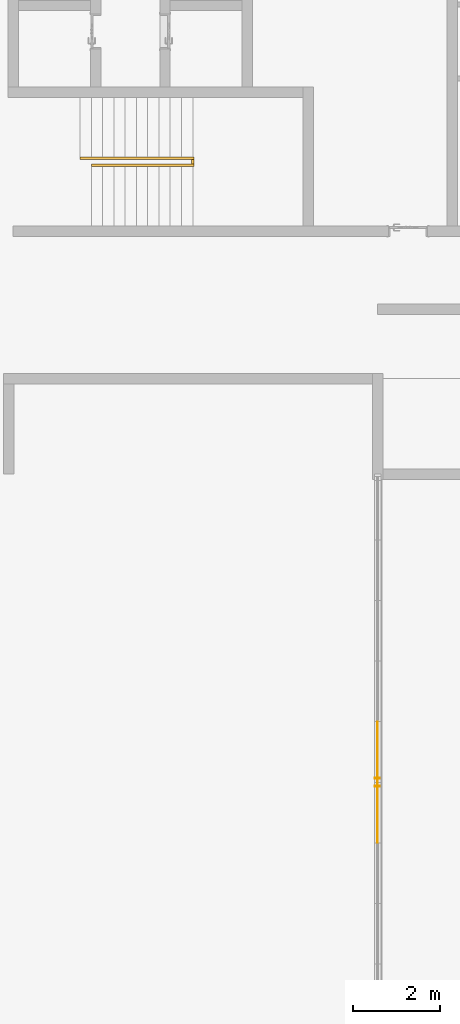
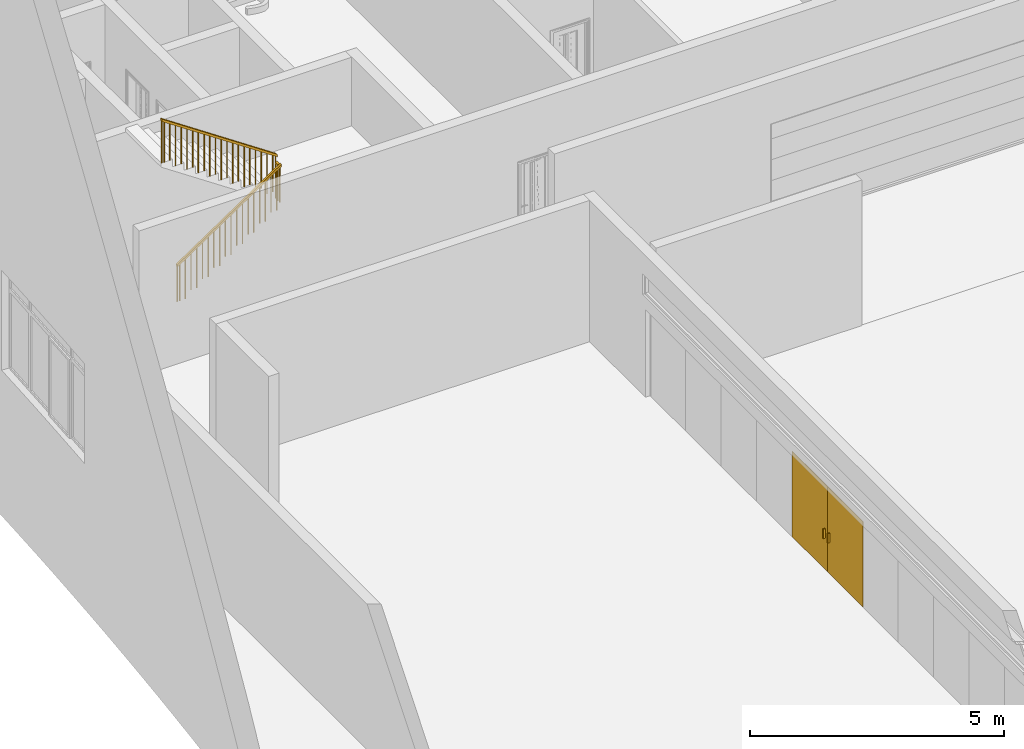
# One storey, part 23 of 24: 2 doors, 1 railing, 2 elements without a shape of their own.
"""IFC2X3 building model written with IfcOpenShell, lengths in millimetres."""

from ifc_helpers import new_model, entity, si_unit, converted_unit, derived_unit, direction, frame, frame_2d, origin, origin_2d_with_axis, place, context, subcontext, project, spatial, polyline, rectangle, outline, extrude, source, transform, mapped, material, material_list, type_object, type_shapes, element, aggregate, save


model = new_model("IFC2X3")

# Units and contexts
model_context = context("Model", 3, precision=0.01, world=origin(), true_north=direction((6.12303176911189e-17, 1.0)))
body_context = subcontext(model_context, "Body", "Model", "MODEL_VIEW")
ifc_project = project(units=[si_unit("LENGTHUNIT", "METRE", prefix="MILLI"), si_unit("AREAUNIT", "SQUARE_METRE"), si_unit("VOLUMEUNIT", "CUBIC_METRE"), converted_unit("PLANEANGLEUNIT", "DEGREE", entity("IfcRatioMeasure", 0.0174532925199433), si_unit("PLANEANGLEUNIT", "RADIAN"), dimensions=[0, 0, 0, 0, 0, 0, 0]), si_unit("MASSUNIT", "GRAM", prefix="KILO"), derived_unit("MASSDENSITYUNIT", [(si_unit("MASSUNIT", "GRAM", prefix="KILO"), 1), (si_unit("LENGTHUNIT", "METRE"), -3)]), si_unit("TIMEUNIT", "SECOND"), si_unit("FREQUENCYUNIT", "HERTZ"), si_unit("THERMODYNAMICTEMPERATUREUNIT", "DEGREE_CELSIUS"), derived_unit("THERMALTRANSMITTANCEUNIT", [(si_unit("MASSUNIT", "GRAM", prefix="KILO"), 1), (si_unit("THERMODYNAMICTEMPERATUREUNIT", "KELVIN"), -1), (si_unit("TIMEUNIT", "SECOND"), -3)]), derived_unit("VOLUMETRICFLOWRATEUNIT", [(si_unit("LENGTHUNIT", "METRE"), 3), (si_unit("TIMEUNIT", "SECOND"), -1)]), si_unit("ELECTRICCURRENTUNIT", "AMPERE"), si_unit("ELECTRICVOLTAGEUNIT", "VOLT"), si_unit("POWERUNIT", "WATT"), si_unit("FORCEUNIT", "NEWTON", prefix="KILO"), si_unit("ILLUMINANCEUNIT", "LUX"), si_unit("LUMINOUSFLUXUNIT", "LUMEN"), si_unit("LUMINOUSINTENSITYUNIT", "CANDELA"), derived_unit("USERDEFINED", [(si_unit("MASSUNIT", "GRAM", prefix="KILO"), -1), (si_unit("LENGTHUNIT", "METRE"), -2), (si_unit("TIMEUNIT", "SECOND"), 3), (si_unit("LUMINOUSFLUXUNIT", "LUMEN"), 1)]), derived_unit("LINEARVELOCITYUNIT", [(si_unit("LENGTHUNIT", "METRE"), 1), (si_unit("TIMEUNIT", "SECOND"), -1)]), si_unit("PRESSUREUNIT", "PASCAL"), derived_unit("USERDEFINED", [(si_unit("LENGTHUNIT", "METRE"), -2), (si_unit("MASSUNIT", "GRAM", prefix="KILO"), 1), (si_unit("TIMEUNIT", "SECOND"), -2)])], contexts=[model_context])

# Site, building, storey
site_placement = place(None, origin())
site = spatial("IfcSite", under=ifc_project, at=site_placement, Name="表面", CompositionType="ELEMENT")
building_placement = place(site_placement, origin())
building = spatial("IfcBuilding", under=site, at=building_placement, CompositionType="ELEMENT")
storey_placement = place(building_placement, frame((0.0, 0.0, -3500.0)))
storey = spatial("IfcBuildingStorey", under=building, at=storey_placement, Name="-1F", CompositionType="ELEMENT", Elevation=-3500.0)

# Curtain wall, doors
curtain_wall_type = type_object("IfcCurtainWallType", Name="幕墙:店面", PredefinedType="NOTDEFINED")
curtain_wall_placement = place(storey_placement, frame((0.0, 0.0, 3500.0)))
curtain_wall = element("IfcCurtainWall", 1, at=curtain_wall_placement, inside=storey, type_object=curtain_wall_type, Name="幕墙:店面", ObjectType="幕墙:店面")
ifc_material_1 = material(Name="金属 - 铝")
ifc_material_2 = material(Name="玻璃")
ifc_material_list_1 = material_list([ifc_material_1, ifc_material_2])
ifc_material_list_2 = material_list([ifc_material_1, ifc_material_2])
door_style_1 = type_object("IfcDoorStyle", Name="幕墙单开玻璃门 900/2100", ConstructionType="NOTDEFINED", OperationType="SINGLE_SWING_RIGHT", ParameterTakesPrecedence=False, Sizeable=False, material=ifc_material_list_2)
shared_shape_1 = source(origin(), body_context, "Body", "SweptSolid", [
    extrude(rectangle(XDim=25.4, YDim=50.8, at=frame_2d((-6.75015598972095e-14, -1.77635683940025e-15), x_axis=(1.0, 0.0))), frame((-609.281818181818, 38.0999999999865, 762.0), z_axis=(0.0, 0.0, 1.0), x_axis=(-1.0, 0.0, 0.0)), (0.0, 0.0, 1.0), 228.6),
    extrude(rectangle(XDim=25.3999999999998, YDim=50.8, at=frame_2d((-6.75015598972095e-14, -3.5527136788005e-15), x_axis=(1.0, 0.0))), frame((-609.281818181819, -25.4000000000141, 762.0)), (0.0, 0.0, 1.0), 228.6),
    extrude(rectangle(XDim=12.7000000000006, YDim=1396.36363636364, at=origin_2d_with_axis()), frame((0.0, 6.34999999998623, 0.0), z_axis=(0.0, 0.0, 1.0), x_axis=(0.0, 1.0, 0.0)), (0.0, 0.0, 1.0), 2050.0),
])
type_shapes(door_style_1, [shared_shape_1])
door_1_placement = place(curtain_wall_placement, frame((-3630.24991264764, -20711.4822766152, -3500.0), z_axis=(0.0, 0.0, 1.0), x_axis=(0.0, 1.0, 0.0)))
door_1 = element("IfcDoor", 2, at=door_1_placement, type_object=door_style_1, material=ifc_material_list_1, Name="幕墙单开玻璃门:幕墙单开玻璃门 900/2100", ObjectType="幕墙单开玻璃门 900/2100", OverallHeight=2050.0, OverallWidth=1396.36363636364, context=body_context, shape_type="MappedRepresentation", body=[
    mapped(shared_shape_1, transform((0.0, 0.0, 0.0), scale=1.0)),
])
ifc_material_list_3 = material_list([ifc_material_1, ifc_material_2])
ifc_material_list_4 = material_list([ifc_material_1, ifc_material_2])
door_style_2 = type_object("IfcDoorStyle", Name="幕墙单开玻璃门 900/2100", ConstructionType="NOTDEFINED", OperationType="SINGLE_SWING_LEFT", ParameterTakesPrecedence=False, Sizeable=False, material=ifc_material_list_4)
shared_shape_2 = source(origin(), body_context, "Body", "SweptSolid", [
    extrude(rectangle(XDim=50.8, YDim=25.4, at=frame_2d((3.5527136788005e-15, 0.0), x_axis=(1.0, 0.0))), frame((-609.281818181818, -38.0999999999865, 762.0), z_axis=(0.0, 0.0, 1.0), x_axis=(0.0, 1.0, 0.0)), (0.0, 0.0, 1.0), 228.6),
    extrude(rectangle(XDim=50.8, YDim=25.3999999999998, at=origin_2d_with_axis()), frame((-609.281818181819, 25.4000000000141, 762.0), z_axis=(0.0, 0.0, 1.0), x_axis=(0.0, -1.0, 0.0)), (0.0, 0.0, 1.0), 228.6),
    extrude(rectangle(XDim=1396.36363636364, YDim=12.7000000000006, at=origin_2d_with_axis()), frame((0.0, -6.34999999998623, 0.0), z_axis=(0.0, 0.0, 1.0), x_axis=(-1.0, 0.0, 0.0)), (0.0, 0.0, 1.0), 2050.0),
])
type_shapes(door_style_2, [shared_shape_2])
door_2_placement = place(curtain_wall_placement, frame((-3630.24991264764, -22107.8459129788, -3500.0), z_axis=(0.0, 0.0, 1.0), x_axis=(0.0, -1.0, 0.0)))
door_2 = element("IfcDoor", 3, at=door_2_placement, type_object=door_style_2, material=ifc_material_list_3, Name="幕墙单开玻璃门:幕墙单开玻璃门 900/2100", ObjectType="幕墙单开玻璃门 900/2100", OverallHeight=2050.0, OverallWidth=1396.36363636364, context=body_context, shape_type="MappedRepresentation", body=[
    mapped(shared_shape_2, transform((0.0, 0.0, 0.0), scale=1.0)),
])
aggregate(curtain_wall, [door_1, door_2])

# Stair, railing
stair_placement = place(storey_placement, origin())
stair = element("IfcStair", 4, at=stair_placement, inside=storey, ShapeType="NOTDEFINED")
ifc_material_3 = material(Name="不锈钢")
railing_placement = place(stair_placement, origin())
railing = element("IfcRailing", 5, at=railing_placement, material=ifc_material_3, Name="栏杆扶手:900mm", ObjectType="栏杆扶手:900mm", PredefinedType="NOTDEFINED", context=body_context, shape_type="SweptSolid", body=[
    extrude(outline(polyline([(-478.624165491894, -10.0), (485.354934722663, -10.0), (485.354934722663, 10.0), (-492.085703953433, 10.0), (-478.624165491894, -10.0)])), frame((-10424.8499126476, -7037.44591297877, 3985.35493472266), z_axis=(0.0, 1.0, 0.0), x_axis=(0.0, 0.0, -1.0)), (0.0, 0.0, 1.0), 19.9999999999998),
    extrude(outline(polyline([(-434.874165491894, -10.0), (441.604934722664, -10.0), (441.604934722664, 10.0), (-448.335703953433, 10.0), (-434.874165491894, -10.0)])), frame((-10294.8499126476, -7037.44591297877, 3941.60493472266), z_axis=(0.0, 1.0, 0.0), x_axis=(0.0, 0.0, -1.0)), (0.0, 0.0, 1.0), 19.9999999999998),
    extrude(outline(polyline([(-478.624165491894, -10.0), (485.354934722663, -10.0), (485.354934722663, 10.0), (-492.085703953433, 10.0), (-478.624165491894, -10.0)])), frame((-10164.8499126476, -7037.44591297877, 3810.35493472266), z_axis=(0.0, 1.0, 0.0), x_axis=(0.0, 0.0, -1.0)), (0.0, 0.0, 1.0), 19.9999999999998),
    extrude(outline(polyline([(-434.874165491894, -10.0), (441.604934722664, -10.0), (441.604934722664, 10.0), (-448.335703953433, 10.0), (-434.874165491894, -10.0)])), frame((-10034.8499126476, -7037.44591297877, 3766.60493472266), z_axis=(0.0, 1.0, 0.0), x_axis=(0.0, 0.0, -1.0)), (0.0, 0.0, 1.0), 19.9999999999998),
    extrude(outline(polyline([(-478.624165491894, -10.0), (485.354934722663, -10.0), (485.354934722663, 10.0), (-492.085703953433, 10.0), (-478.624165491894, -10.0)])), frame((-9904.84991264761, -7037.44591297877, 3635.35493472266), z_axis=(0.0, 1.0, 0.0), x_axis=(0.0, 0.0, -1.0)), (0.0, 0.0, 1.0), 19.9999999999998),
    extrude(outline(polyline([(-434.874165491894, -10.0), (441.604934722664, -10.0), (441.604934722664, 10.0), (-448.335703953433, 10.0), (-434.874165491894, -10.0)])), frame((-9774.84991264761, -7037.44591297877, 3591.60493472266), z_axis=(0.0, 1.0, 0.0), x_axis=(0.0, 0.0, -1.0)), (0.0, 0.0, 1.0), 19.9999999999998),
    extrude(outline(polyline([(-478.624165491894, -10.0), (485.354934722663, -10.0), (485.354934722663, 10.0), (-492.085703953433, 10.0), (-478.624165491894, -10.0)])), frame((-9644.84991264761, -7037.44591297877, 3460.35493472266), z_axis=(0.0, 1.0, 0.0), x_axis=(0.0, 0.0, -1.0)), (0.0, 0.0, 1.0), 19.9999999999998),
    extrude(outline(polyline([(-434.874165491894, -10.0), (441.604934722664, -10.0), (441.604934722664, 10.0), (-448.335703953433, 10.0), (-434.874165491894, -10.0)])), frame((-9514.84991264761, -7037.44591297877, 3416.60493472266), z_axis=(0.0, 1.0, 0.0), x_axis=(0.0, 0.0, -1.0)), (0.0, 0.0, 1.0), 19.9999999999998),
    extrude(outline(polyline([(-478.624165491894, -10.0), (485.354934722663, -10.0), (485.354934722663, 10.0), (-492.085703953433, 10.0), (-478.624165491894, -10.0)])), frame((-9384.84991264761, -7037.44591297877, 3285.35493472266), z_axis=(0.0, 1.0, 0.0), x_axis=(0.0, 0.0, -1.0)), (0.0, 0.0, 1.0), 19.9999999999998),
    extrude(outline(polyline([(-434.874165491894, -10.0), (441.604934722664, -10.0), (441.604934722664, 10.0), (-448.335703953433, 10.0), (-434.874165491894, -10.0)])), frame((-9254.84991264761, -7037.44591297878, 3241.60493472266), z_axis=(0.0, 1.0, 0.0), x_axis=(0.0, 0.0, -1.0)), (0.0, 0.0, 1.0), 19.9999999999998),
    extrude(outline(polyline([(-478.624165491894, -10.0), (485.354934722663, -10.0), (485.354934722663, 10.0), (-492.085703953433, 10.0), (-478.624165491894, -10.0)])), frame((-9124.84991264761, -7037.44591297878, 3110.35493472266), z_axis=(0.0, 1.0, 0.0), x_axis=(0.0, 0.0, -1.0)), (0.0, 0.0, 1.0), 19.9999999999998),
    extrude(outline(polyline([(-434.874165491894, -10.0), (441.604934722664, -10.0), (441.604934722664, 10.0), (-448.335703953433, 10.0), (-434.874165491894, -10.0)])), frame((-8994.84991264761, -7037.44591297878, 3066.60493472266), z_axis=(0.0, 1.0, 0.0), x_axis=(0.0, 0.0, -1.0)), (0.0, 0.0, 1.0), 19.9999999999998),
    extrude(outline(polyline([(-478.624165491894, -10.0), (485.354934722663, -10.0), (485.354934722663, 10.0), (-492.085703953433, 10.0), (-478.624165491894, -10.0)])), frame((-8864.84991264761, -7037.44591297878, 2935.35493472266), z_axis=(0.0, 1.0, 0.0), x_axis=(0.0, 0.0, -1.0)), (0.0, 0.0, 1.0), 19.9999999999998),
    extrude(outline(polyline([(-434.874165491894, -10.0), (441.604934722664, -10.0), (441.604934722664, 10.0), (-448.335703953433, 10.0), (-434.874165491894, -10.0)])), frame((-8734.84991264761, -7037.44591297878, 2891.60493472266), z_axis=(0.0, 1.0, 0.0), x_axis=(0.0, 0.0, -1.0)), (0.0, 0.0, 1.0), 19.9999999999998),
    extrude(outline(polyline([(-478.624165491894, -10.0), (485.354934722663, -10.0), (485.354934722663, 10.0), (-492.085703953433, 10.0), (-478.624165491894, -10.0)])), frame((-8604.84991264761, -7037.44591297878, 2760.35493472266), z_axis=(0.0, 1.0, 0.0), x_axis=(0.0, 0.0, -1.0)), (0.0, 0.0, 1.0), 19.9999999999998),
    extrude(outline(polyline([(-434.874165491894, -10.0), (441.604934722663, -10.0), (441.604934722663, 10.0), (-448.335703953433, 10.0), (-434.874165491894, -10.0)])), frame((-8474.84991264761, -7037.44591297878, 2716.60493472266), z_axis=(0.0, 1.0, 0.0), x_axis=(0.0, 0.0, -1.0)), (0.0, 0.0, 1.0), 19.9999999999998),
    extrude(outline(polyline([(-478.624165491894, -10.0), (485.354934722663, -10.0), (485.354934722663, 10.0), (-492.085703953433, 10.0), (-478.624165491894, -10.0)])), frame((-8344.84991264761, -7037.44591297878, 2585.35493472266), z_axis=(0.0, 1.0, 0.0), x_axis=(0.0, 0.0, -1.0)), (0.0, 0.0, 1.0), 19.9999999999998),
    extrude(outline(polyline([(-434.874165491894, -10.0), (441.604934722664, -10.0), (441.604934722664, 10.0), (-448.335703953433, 10.0), (-434.874165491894, -10.0)])), frame((-8214.84991264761, -7037.44591297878, 2541.60493472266), z_axis=(0.0, 1.0, 0.0), x_axis=(0.0, 0.0, -1.0)), (0.0, 0.0, 1.0), 19.9999999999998),
    extrude(outline(polyline([(-478.624165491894, -10.0), (485.354934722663, -10.0), (485.354934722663, 10.0), (-492.085703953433, 10.0), (-478.624165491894, -10.0)])), frame((-8084.84991264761, -7037.44591297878, 2410.35493472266), z_axis=(0.0, 1.0, 0.0), x_axis=(0.0, 0.0, -1.0)), (0.0, 0.0, 1.0), 19.9999999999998),
    extrude(outline(polyline([(-434.874165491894, -10.0), (441.604934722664, -10.0), (441.604934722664, 10.0), (-448.335703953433, 10.0), (-434.874165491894, -10.0)])), frame((-7954.84991264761, -7037.44591297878, 2366.60493472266), z_axis=(0.0, 1.0, 0.0), x_axis=(0.0, 0.0, -1.0)), (0.0, 0.0, 1.0), 19.9999999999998),
    extrude(rectangle(XDim=19.9999999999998, YDim=19.9999999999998, at=origin_2d_with_axis()), frame((-7889.84991264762, -7123.24591297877, 1750.0)), (0.0, 0.0, 1.0), 850.0),
    extrude(outline(polyline([(-485.489550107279, -10.0), (478.75878087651, -10.0), (492.220319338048, 10.0), (-485.489550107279, 10.0), (-485.489550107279, -10.0)])), frame((-7955.24991264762, -7198.24591297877, 2060.48955010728), z_axis=(0.0, 1.0, 0.0), x_axis=(0.0, 0.0, 1.0)), (0.0, 0.0, 1.0), 19.9999999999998),
    extrude(outline(polyline([(-441.739550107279, -10.0), (435.00878087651, -10.0), (448.470319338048, 10.0), (-441.739550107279, 10.0), (-441.739550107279, -10.0)])), frame((-8085.24991264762, -7198.24591297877, 2016.73955010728), z_axis=(0.0, 1.0, 0.0), x_axis=(0.0, 0.0, 1.0)), (0.0, 0.0, 1.0), 19.9999999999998),
    extrude(outline(polyline([(-485.489550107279, -10.0), (478.758780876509, -10.0), (492.220319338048, 10.0), (-485.489550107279, 10.0), (-485.489550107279, -10.0)])), frame((-8215.24991264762, -7198.24591297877, 1885.48955010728), z_axis=(0.0, 1.0, 0.0), x_axis=(0.0, 0.0, 1.0)), (0.0, 0.0, 1.0), 19.9999999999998),
    extrude(outline(polyline([(-441.739550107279, -10.0), (435.00878087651, -10.0), (448.470319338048, 10.0), (-441.739550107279, 10.0), (-441.739550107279, -10.0)])), frame((-8345.24991264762, -7198.24591297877, 1841.73955010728), z_axis=(0.0, 1.0, 0.0), x_axis=(0.0, 0.0, 1.0)), (0.0, 0.0, 1.0), 19.9999999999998),
    extrude(outline(polyline([(-485.489550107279, -10.0), (478.75878087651, -10.0), (492.220319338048, 10.0), (-485.489550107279, 10.0), (-485.489550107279, -10.0)])), frame((-8475.24991264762, -7198.24591297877, 1710.48955010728), z_axis=(0.0, 1.0, 0.0), x_axis=(0.0, 0.0, 1.0)), (0.0, 0.0, 1.0), 19.9999999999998),
    extrude(outline(polyline([(-441.739550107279, -10.0), (435.00878087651, -10.0), (448.470319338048, 10.0), (-441.739550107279, 10.0), (-441.739550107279, -10.0)])), frame((-8605.24991264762, -7198.24591297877, 1666.73955010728), z_axis=(0.0, 1.0, 0.0), x_axis=(0.0, 0.0, 1.0)), (0.0, 0.0, 1.0), 19.9999999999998),
    extrude(outline(polyline([(-485.489550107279, -10.0), (478.758780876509, -10.0), (492.220319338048, 10.0), (-485.489550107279, 10.0), (-485.489550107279, -10.0)])), frame((-8735.24991264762, -7198.24591297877, 1535.48955010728), z_axis=(0.0, 1.0, 0.0), x_axis=(0.0, 0.0, 1.0)), (0.0, 0.0, 1.0), 19.9999999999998),
    extrude(outline(polyline([(-441.739550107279, -10.0), (435.00878087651, -10.0), (448.470319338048, 10.0), (-441.739550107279, 10.0), (-441.739550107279, -10.0)])), frame((-8865.24991264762, -7198.24591297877, 1491.73955010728), z_axis=(0.0, 1.0, 0.0), x_axis=(0.0, 0.0, 1.0)), (0.0, 0.0, 1.0), 19.9999999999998),
    extrude(outline(polyline([(-485.489550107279, -10.0), (478.75878087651, -10.0), (492.220319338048, 10.0), (-485.489550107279, 10.0), (-485.489550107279, -10.0)])), frame((-8995.24991264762, -7198.24591297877, 1360.48955010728), z_axis=(0.0, 1.0, 0.0), x_axis=(0.0, 0.0, 1.0)), (0.0, 0.0, 1.0), 19.9999999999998),
    extrude(outline(polyline([(-441.739550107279, -10.0), (435.00878087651, -10.0), (448.470319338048, 10.0), (-441.739550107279, 10.0), (-441.739550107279, -10.0)])), frame((-9125.24991264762, -7198.24591297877, 1316.73955010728), z_axis=(0.0, 1.0, 0.0), x_axis=(0.0, 0.0, 1.0)), (0.0, 0.0, 1.0), 19.9999999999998),
    extrude(outline(polyline([(-485.489550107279, -10.0), (478.758780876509, -10.0), (492.220319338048, 10.0), (-485.489550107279, 10.0), (-485.489550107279, -10.0)])), frame((-9255.24991264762, -7198.24591297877, 1185.48955010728), z_axis=(0.0, 1.0, 0.0), x_axis=(0.0, 0.0, 1.0)), (0.0, 0.0, 1.0), 19.9999999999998),
    extrude(outline(polyline([(-441.739550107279, -10.0), (435.00878087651, -10.0), (448.470319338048, 10.0), (-441.739550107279, 10.0), (-441.739550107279, -10.0)])), frame((-9385.24991264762, -7198.24591297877, 1141.73955010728), z_axis=(0.0, 1.0, 0.0), x_axis=(0.0, 0.0, 1.0)), (0.0, 0.0, 1.0), 19.9999999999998),
    extrude(outline(polyline([(-485.489550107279, -10.0), (478.758780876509, -10.0), (492.220319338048, 10.0), (-485.489550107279, 10.0), (-485.489550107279, -10.0)])), frame((-9515.24991264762, -7198.24591297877, 1010.48955010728), z_axis=(0.0, 1.0, 0.0), x_axis=(0.0, 0.0, 1.0)), (0.0, 0.0, 1.0), 19.9999999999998),
    extrude(outline(polyline([(-441.739550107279, -10.0), (435.00878087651, -10.0), (448.470319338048, 10.0), (-441.739550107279, 10.0), (-441.739550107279, -10.0)])), frame((-9645.24991264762, -7198.24591297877, 966.739550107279), z_axis=(0.0, 1.0, 0.0), x_axis=(0.0, 0.0, 1.0)), (0.0, 0.0, 1.0), 19.9999999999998),
    extrude(outline(polyline([(-485.489550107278, -10.0), (478.75878087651, -10.0), (492.220319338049, 10.0), (-485.489550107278, 10.0), (-485.489550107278, -10.0)])), frame((-9775.24991264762, -7198.24591297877, 835.489550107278), z_axis=(0.0, 1.0, 0.0), x_axis=(0.0, 0.0, 1.0)), (0.0, 0.0, 1.0), 19.9999999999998),
    extrude(outline(polyline([(-441.739550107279, -10.0), (435.00878087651, -10.0), (448.470319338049, 10.0), (-441.739550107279, 10.0), (-441.739550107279, -10.0)])), frame((-9905.24991264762, -7198.24591297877, 791.739550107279), z_axis=(0.0, 1.0, 0.0), x_axis=(0.0, 0.0, 1.0)), (0.0, 0.0, 1.0), 19.9999999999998),
    extrude(outline(polyline([(-485.489550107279, -10.0), (478.758780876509, -10.0), (492.220319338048, 10.0), (-485.489550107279, 10.0), (-485.489550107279, -10.0)])), frame((-10035.2499126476, -7198.24591297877, 660.489550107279), z_axis=(0.0, 1.0, 0.0), x_axis=(0.0, 0.0, 1.0)), (0.0, 0.0, 1.0), 19.9999999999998),
    extrude(outline(polyline([(-441.739550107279, -10.0), (435.00878087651, -10.0), (448.470319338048, 10.0), (-441.739550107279, 10.0), (-441.739550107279, -10.0)])), frame((-10165.2499126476, -7198.24591297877, 616.739550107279), z_axis=(0.0, 1.0, 0.0), x_axis=(0.0, 0.0, 1.0)), (0.0, 0.0, 1.0), 19.9999999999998),
    extrude(outline(polyline([(-500.499165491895, -10.0), (507.229934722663, -10.0), (507.229934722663, 10.0), (-513.960703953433, 10.0), (-500.499165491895, -10.0)])), frame((-7889.84991264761, -7037.44591297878, 2257.22993472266), z_axis=(0.0, 1.0, 0.0), x_axis=(0.0, 0.0, -1.0)), (0.0, 0.0, 1.0), 19.9999999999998),
    extrude(rectangle(XDim=19.9999999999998, YDim=19.9999999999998, at=origin_2d_with_axis()), frame((-7889.84991264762, -7188.24591297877, 1750.0), z_axis=(0.0, 0.0, 1.0), x_axis=(0.0, -1.0, 0.0)), (0.0, 0.0, 1.0), 850.0),
    extrude(outline(polyline([(-419.864550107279, -10.0), (413.133780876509, -10.0), (426.595319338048, 10.0), (-419.864550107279, 10.0), (-419.864550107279, -10.0)])), frame((-7890.24991264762, -7198.24591297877, 2169.86455010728), z_axis=(0.0, 1.0, 0.0), x_axis=(0.0, 0.0, 1.0)), (0.0, 0.0, 1.0), 19.9999999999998),
    extrude(outline(polyline([(-497.268396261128, -10.0), (503.999165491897, -10.0), (503.999165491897, 10.0), (-510.729934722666, 10.0), (-497.268396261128, -10.0)])), frame((-10480.2499126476, -7037.44591297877, 4003.9991654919), z_axis=(0.0, 1.0, 0.0), x_axis=(0.0, 0.0, -1.0)), (0.0, 0.0, 1.0), 19.9999999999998),
    extrude(outline(polyline([(-423.229934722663, -10.0), (416.499165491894, -10.0), (429.960703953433, 10.0), (-423.229934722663, 10.0), (-423.229934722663, -10.0)])), frame((-10220.2499126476, -7198.24591297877, 598.229934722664), z_axis=(0.0, 1.0, 0.0), x_axis=(0.0, 0.0, 1.0)), (0.0, 0.0, 1.0), 19.9999999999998),
    extrude(outline(polyline([(-1408.82094044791, -25.0), (1442.47478660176, -25.0), (1408.82094044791, 25.0), (-1442.47478660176, 25.0), (-1408.82094044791, -25.0)])), frame((-9047.54991264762, -7213.24591297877, 1840.91262703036), z_axis=(0.0, 1.0, 0.0), x_axis=(0.829587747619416, 0.0, 0.55837636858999)), (0.0, 0.0, 1.0), 49.9999999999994),
    extrude(rectangle(XDim=110.799999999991, YDim=49.9999999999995, at=frame_2d((-5.43565192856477e-13, 0.0), x_axis=(1.0, 0.0))), frame((-7889.84991264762, -7107.84591297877, 2600.0), z_axis=(0.0, 0.0, 1.0), x_axis=(0.0, 1.0, 0.0)), (0.0, 0.0, 1.0), 50.0),
    extrude(outline(polyline([(-1599.17912604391, -25.0), (1565.52527989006, -25.0), (1599.17912604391, 25.0), (-1565.52527989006, 25.0), (-1599.17912604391, -25.0)])), frame((-9177.54991264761, -7052.44591297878, 3661.3164731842), z_axis=(0.0, 1.0, 0.0), x_axis=(-0.829587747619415, 0.0, 0.558376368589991)), (0.0, 0.0, 1.0), 49.9999999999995),
])
aggregate(stair, [railing])

save(model, "model.ifc")
